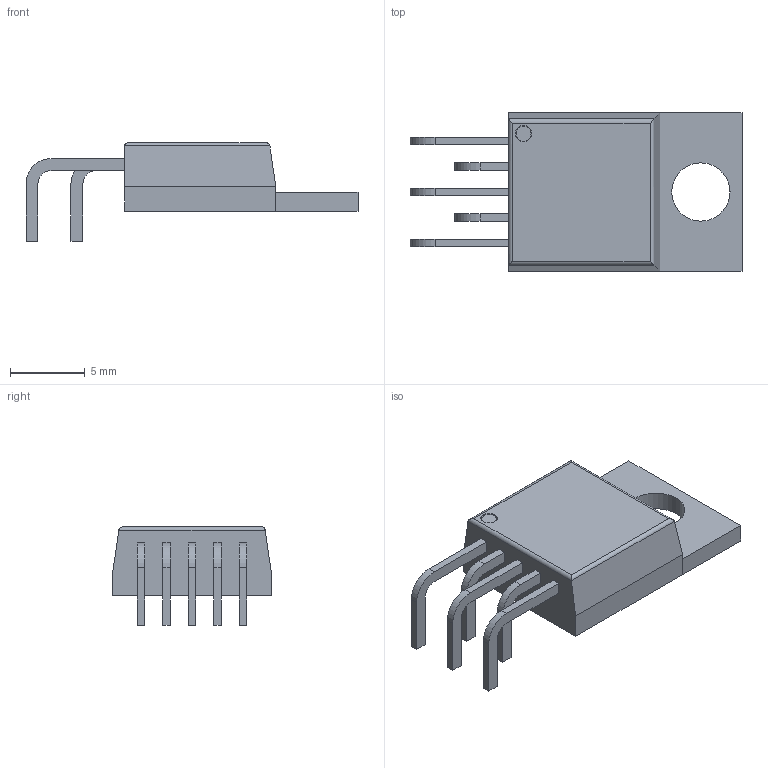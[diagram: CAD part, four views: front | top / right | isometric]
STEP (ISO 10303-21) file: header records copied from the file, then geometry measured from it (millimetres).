
FILE_DESCRIPTION (( 'STEP AP214' ), '1' );
FILE_NAME ( 'TO170P1557X1054X457-6.STEP', '2021-10-06T06:48:58', ( '' ), ( '' ), '', '©2017 PCB Libraries, Inc.', '' );
FILE_SCHEMA (( 'AUTOMOTIVE_DESIGN' ));
Length unit declared in the file: millimetre
Products named in the file (1): TO170P1557X1054X457-6
Bounding box: 22.14 x 10.54 x 6.57 mm (x, y, z)
Volume: 544.4 mm3; surface area: 659.1 mm2
Topology: 7 solids, 7 shells, 74 faces, 173 edges, 114 vertices
Faces by surface type: plane 56, cylinder 16, torus 2
Entity records: 2408 total; most frequent: CARTESIAN_POINT 380, DIRECTION 347, ORIENTED_EDGE 346, EDGE_CURVE 173, VECTOR 137, LINE 137, VERTEX_POINT 114, AXIS2_PLACEMENT_3D 105
